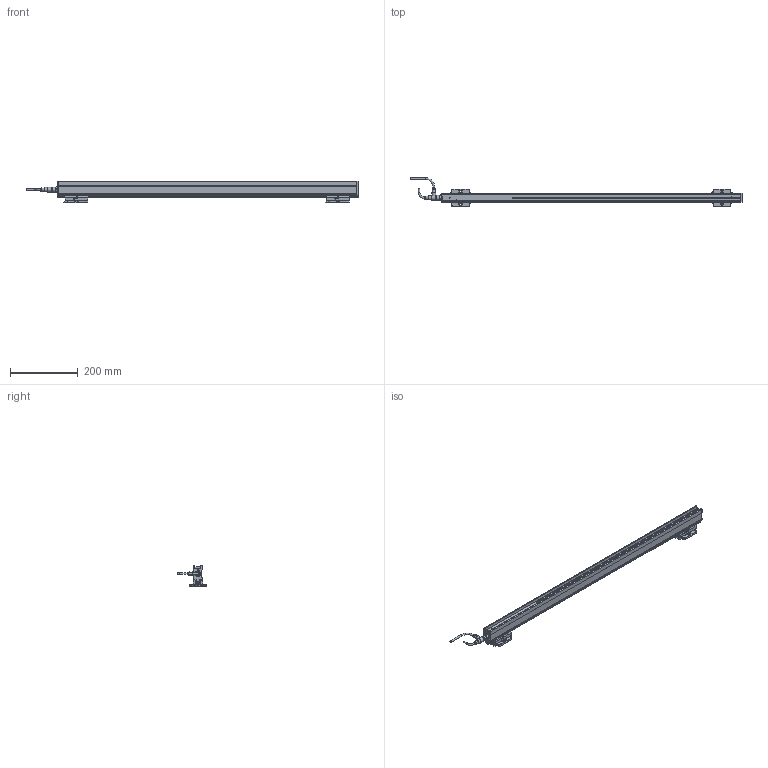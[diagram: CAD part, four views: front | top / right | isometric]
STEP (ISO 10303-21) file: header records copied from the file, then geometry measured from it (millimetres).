
FILE_DESCRIPTION(('Bauteilbeschreibung','HiCAD-Model','HiCAD-STEP-TRANSLATION','Bauteilbeschreibung'),'2;1');
FILE_NAME('PERFORMAXIQEASY_810-900_3D.STP','2014-03-05T11:29:12+00:00',('Konstrukteur'),('Konstrukteur Firma GmbH'),' HiCAD 2011, Step 1600.0 ','HiCAD 2011','confidential');
FILE_SCHEMA(('AUTOMOTIVE_DESIGN { 1 2 10303 214 0 1 1 1 }'));
Products named in the file (38): PERFORMAXIQEASY_810_900_3D; A_PERFORMAX IQ EASY 810_900; A_PERFORMAX IQ EASY SPEED; A_CAP DE; A_CAP CE_5; GROUP; PIN; GROUP0; PIN0; LED_2C_3MM; LED02C03MM; A519020315_CONNECTOR APPLIANCE; A_INSERT; A_CONTACTS; A_HOUSING; A_PROFILE; A_POTTING; A532000100_BRACKET BARS_ MOUNT; A_SIDE PIECE; A0SIDE0PIECE; A_BRACKET SMALL; A_SLIDE PIECE; A5320001000BRACKET0BARS00MOUNT; A0SIDE0PIECE0; A0SIDE0PIECE1; A0BRACKET0SMALL; A0SLIDE0PIECE; A_CONNECTOR STRAIGHT; EXTRUDED SOLID_0; DRAAD GEBOGEN; REVOLVED SOLID_1; REVOLVED SOLID_3; A_CONNECTOR ANGLED; REVOLVED0SOLID01; EXTRUDED0SOLID00; C_EDGE SWEEP_0; REVOLVED SOLID_2; REVOLVED0SOLID03
Assembly tree (37 placements, depth 5):
  PERFORMAXIQEASY_810_900_3D
    A_PERFORMAX IQ EASY 810_900
      A_PERFORMAX IQ EASY SPEED
        A_CAP DE
        A_CAP CE_5
        GROUP
          PIN
        GROUP0
          PIN0
        LED_2C_3MM
        LED02C03MM
        A519020315_CONNECTOR APPLIANCE
          A_INSERT
          A_CONTACTS
          A_HOUSING
        A_PROFILE
        A_POTTING
      A532000100_BRACKET BARS_ MOUNT
        A_SIDE PIECE
        A0SIDE0PIECE
        A_BRACKET SMALL
        A_SLIDE PIECE
      A5320001000BRACKET0BARS00MOUNT
        A0SIDE0PIECE0
        A0SIDE0PIECE1
        A0BRACKET0SMALL
        A0SLIDE0PIECE
      A_CONNECTOR STRAIGHT
        EXTRUDED SOLID_0
        DRAAD GEBOGEN
        REVOLVED SOLID_1
        REVOLVED SOLID_3
      A_CONNECTOR ANGLED
        REVOLVED0SOLID01
        EXTRUDED0SOLID00
        C_EDGE SWEEP_0
        REVOLVED SOLID_2
        REVOLVED0SOLID03
Bounding box: 977.89 x 84.28 x 63.13 mm (x, y, z)
Volume: 941328.3 mm3; surface area: 248781.1 mm2
Topology: 33 solids, 33 shells, 1911 faces, 4879 edges, 2932 vertices
Faces by surface type: cylinder 777, plane 751, sphere 112, torus 111, bspline 88, cone 72
Full cylindrical faces by diameter (mm): 0.8 x10, 1 x5, 2.387 x4, 3 x11, 3.1 x1, 4.2 x2, 5 x4, 5.5 x10, 8 x2, 8.2 x1, 8.4 x2, 8.945 x1, 9 x2, 10.2 x1, 10.5 x3, 11 x1, 12 x3, 12.8 x1, 13.8 x4, 14.5 x3
Entity records: 87383 total; most frequent: CARTESIAN_POINT 19760, DIRECTION 9521, ORIENTED_EDGE 9176, EDGE_CURVE 4588, COLOUR_RGB 4377, PRESENTATION_STYLE_ASSIGNMENT 4377, OVER_RIDING_STYLED_ITEM 4349, CURVE_STYLE 4344
